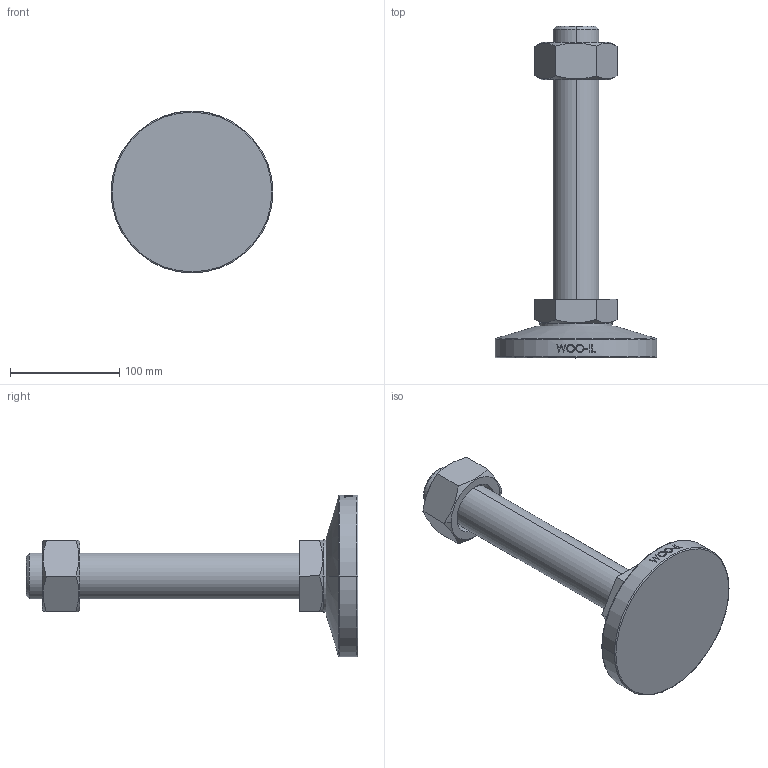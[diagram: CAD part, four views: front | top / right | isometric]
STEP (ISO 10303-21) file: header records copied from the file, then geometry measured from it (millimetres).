
FILE_DESCRIPTION (( 'STEP AP214' ), '1' );
FILE_NAME ('MFB148-M42-250.step', '2022-06-27T08:35:14', ( '' ), ( '' ), 'SwSTEP 2.0', 'SolidWorks 2019', '' );
FILE_SCHEMA (( 'AUTOMOTIVE_DESIGN' ));
Length unit declared in the file: millimetre
Products named in the file (1): MFB148-M42-250
Bounding box: 148 x 303.5 x 148 mm (x, y, z)
Volume: 923802.4 mm3; surface area: 103848.8 mm2
Topology: 3 solids, 3 shells, 97 faces, 225 edges, 144 vertices
Faces by surface type: plane 47, cylinder 16, bspline 16, cone 14, torus 4
Entity records: 4311 total; most frequent: CARTESIAN_POINT 2181, ORIENTED_EDGE 450, DIRECTION 385, EDGE_CURVE 225, AXIS2_PLACEMENT_3D 144, VERTEX_POINT 144, EDGE_LOOP 109, LINE 97
